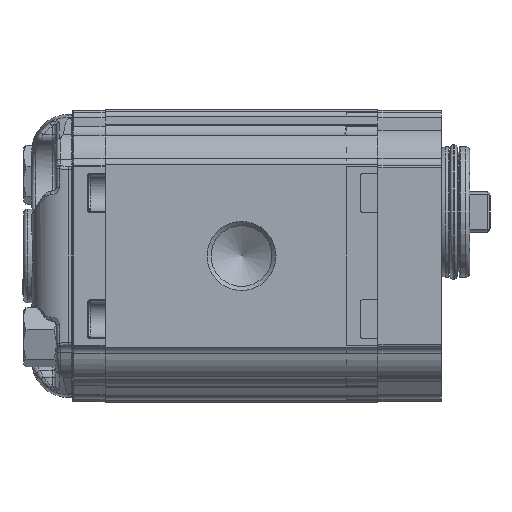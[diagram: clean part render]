
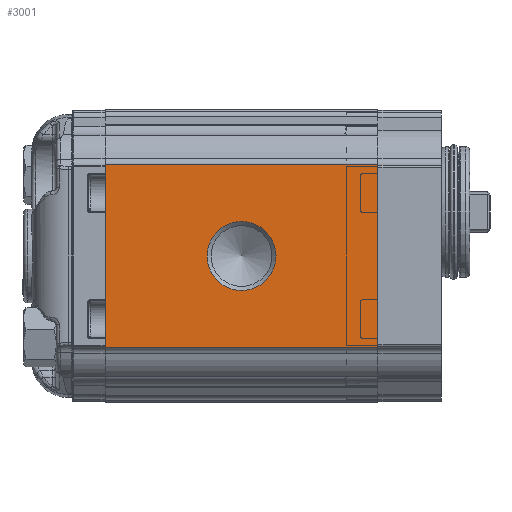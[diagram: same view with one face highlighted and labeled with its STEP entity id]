
A CAD part, left-side view. The second image highlights one B-rep face of the part: STEP entity #3001.
In plain terms, the highlighted planar face has unit normal (-1, 0, 0).
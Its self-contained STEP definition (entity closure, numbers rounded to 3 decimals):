
#3001 = ADVANCED_FACE( '', ( #7333, #7334 ), #7335, .T. );
#7333 = FACE_BOUND( '', #14304, .T. );
#7334 = FACE_OUTER_BOUND( '', #14305, .T. );
#7335 = PLANE( '', #14306 );
#14304 = EDGE_LOOP( '', ( #25855 ) );
#14305 = EDGE_LOOP( '', ( #25856, #25857, #25858, #25859 ) );
#14306 = AXIS2_PLACEMENT_3D( '', #25860, #25861, #25862 );
#25855 = ORIENTED_EDGE( '', *, *, #40119, .F. );
#25856 = ORIENTED_EDGE( '', *, *, #37635, .T. );
#25857 = ORIENTED_EDGE( '', *, *, #40120, .T. );
#25858 = ORIENTED_EDGE( '', *, *, #40121, .T. );
#25859 = ORIENTED_EDGE( '', *, *, #37934, .F. );
#25860 = CARTESIAN_POINT( '', ( -33., 135.47, 48.138 ) );
#25861 = DIRECTION( '', ( -1., 0., 0. ) );
#25862 = DIRECTION( '', ( 0., 0., 1. ) );
#37635 = EDGE_CURVE( '', #44332, #44333, #44334, .T. );
#37934 = EDGE_CURVE( '', #44332, #44877, #44878, .T. );
#40119 = EDGE_CURVE( '', #48441, #48441, #48442, .F. );
#40120 = EDGE_CURVE( '', #44333, #48443, #48444, .T. );
#40121 = EDGE_CURVE( '', #48443, #44877, #48445, .F. );
#44332 = VERTEX_POINT( '', #54351 );
#44333 = VERTEX_POINT( '', #54352 );
#44334 = LINE( '', #54353, #54354 );
#44877 = VERTEX_POINT( '', #55380 );
#44878 = LINE( '', #55381, #55382 );
#48441 = VERTEX_POINT( '', #62433 );
#48442 = CIRCLE( '', #62434, 8.475 );
#48443 = VERTEX_POINT( '', #62435 );
#48444 = LINE( '', #62436, #62437 );
#48445 = LINE( '', #62438, #62439 );
#54351 = CARTESIAN_POINT( '', ( -33., 67., -22.5 ) );
#54352 = CARTESIAN_POINT( '', ( -33., 0., -22.5 ) );
#54353 = CARTESIAN_POINT( '', ( -33., 67., -22.5 ) );
#54354 = VECTOR( '', #71994, 1000. );
#55380 = CARTESIAN_POINT( '', ( -33., 67., 22.5 ) );
#55381 = CARTESIAN_POINT( '', ( -33., 67., -21.711 ) );
#55382 = VECTOR( '', #72379, 1000. );
#62433 = CARTESIAN_POINT( '', ( -33., 33.5, -8.475 ) );
#62434 = AXIS2_PLACEMENT_3D( '', #74941, #74942, #74943 );
#62435 = CARTESIAN_POINT( '', ( -33., 0., 22.5 ) );
#62436 = CARTESIAN_POINT( '', ( -33., 0., -21.711 ) );
#62437 = VECTOR( '', #74944, 1000. );
#62438 = CARTESIAN_POINT( '', ( -33., 67., 22.5 ) );
#62439 = VECTOR( '', #74945, 1000. );
#71994 = DIRECTION( '', ( 0., -1., 0. ) );
#72379 = DIRECTION( '', ( 0., 0., 1. ) );
#74941 = CARTESIAN_POINT( '', ( -33., 33.5, 0. ) );
#74942 = DIRECTION( '', ( 1., 0., 0. ) );
#74943 = DIRECTION( '', ( 0., 0., -1. ) );
#74944 = DIRECTION( '', ( 0., 0., 1. ) );
#74945 = DIRECTION( '', ( 0., -1., 0. ) );
